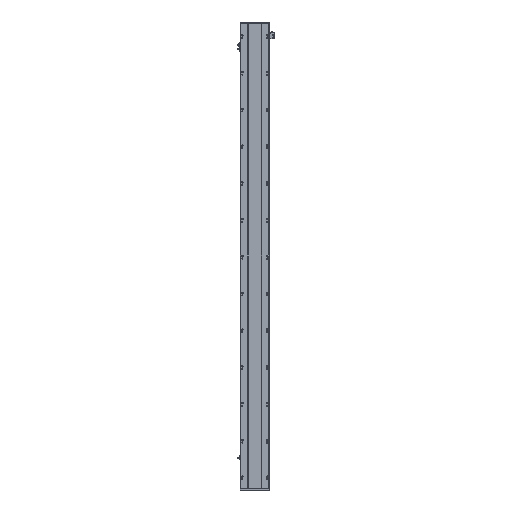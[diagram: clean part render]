
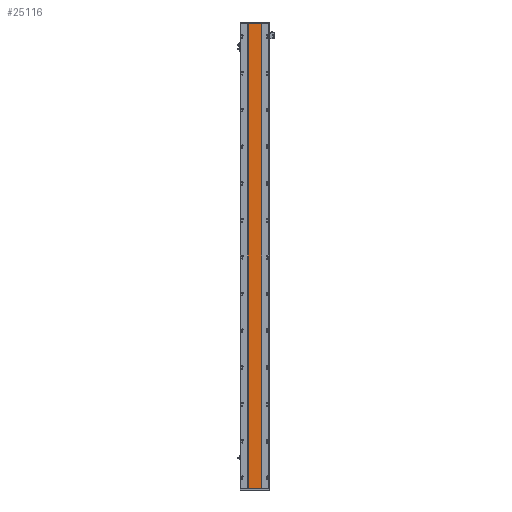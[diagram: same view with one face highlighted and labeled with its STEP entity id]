
A CAD part, front view. The second image highlights one B-rep face of the part: STEP entity #25116.
In plain terms, the highlighted planar face has unit normal (0, -1, 0).
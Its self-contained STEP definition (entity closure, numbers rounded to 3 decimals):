
#402 = LINE ( 'NONE', #27187, #14129 ) ;
#503 = LINE ( 'NONE', #15729, #35595 ) ;
#879 = EDGE_CURVE ( 'NONE', #9403, #27815, #32915, .T. ) ;
#1818 = ORIENTED_EDGE ( 'NONE', *, *, #44872, .T. ) ;
#2358 = EDGE_CURVE ( 'NONE', #36600, #9403, #402, .T. ) ;
#3226 = CARTESIAN_POINT ( 'NONE',  ( 205.288, 16.9, 2728. ) ) ;
#3916 = LINE ( 'NONE', #9081, #23621 ) ;
#6047 = VECTOR ( 'NONE', #44891, 1000. ) ;
#9081 = CARTESIAN_POINT ( 'NONE',  ( 205.288, 16.9, 0. ) ) ;
#9403 = VERTEX_POINT ( 'NONE', #39782 ) ;
#11802 = VERTEX_POINT ( 'NONE', #30415 ) ;
#11845 = EDGE_CURVE ( 'NONE', #36600, #11802, #503, .T. ) ;
#12239 = ORIENTED_EDGE ( 'NONE', *, *, #879, .F. ) ;
#13074 = DIRECTION ( 'NONE',  ( 1., 0., 0. ) ) ;
#13469 = CARTESIAN_POINT ( 'NONE',  ( 129.288, 16.9, 2728. ) ) ;
#14129 = VECTOR ( 'NONE', #13074, 1000. ) ;
#14479 = CARTESIAN_POINT ( 'NONE',  ( 205.288, 16.9, 2728. ) ) ;
#15729 = CARTESIAN_POINT ( 'NONE',  ( 129.288, 16.9, 2728. ) ) ;
#19232 = DIRECTION ( 'NONE',  ( 0., 0., -1. ) ) ;
#23621 = VECTOR ( 'NONE', #34481, 1000. ) ;
#24435 = DIRECTION ( 'NONE',  ( 0., 1., 0. ) ) ;
#25116 = ADVANCED_FACE ( 'NONE', ( #43645 ), #35025, .F. ) ;
#27187 = CARTESIAN_POINT ( 'NONE',  ( 129.288, 16.9, 2728. ) ) ;
#27815 = VERTEX_POINT ( 'NONE', #39655 ) ;
#30415 = CARTESIAN_POINT ( 'NONE',  ( 129.288, 16.9, 0. ) ) ;
#32050 = AXIS2_PLACEMENT_3D ( 'NONE', #14479, #24435, #38534 ) ;
#32915 = LINE ( 'NONE', #3226, #6047 ) ;
#34270 = EDGE_LOOP ( 'NONE', ( #1818, #12239, #37625, #35289 ) ) ;
#34481 = DIRECTION ( 'NONE',  ( 1., 0., 0. ) ) ;
#35025 = PLANE ( 'NONE',  #32050 ) ;
#35289 = ORIENTED_EDGE ( 'NONE', *, *, #11845, .T. ) ;
#35595 = VECTOR ( 'NONE', #19232, 1000. ) ;
#36600 = VERTEX_POINT ( 'NONE', #13469 ) ;
#37625 = ORIENTED_EDGE ( 'NONE', *, *, #2358, .F. ) ;
#38534 = DIRECTION ( 'NONE',  ( -1., 0., 0. ) ) ;
#39655 = CARTESIAN_POINT ( 'NONE',  ( 205.288, 16.9, 0. ) ) ;
#39782 = CARTESIAN_POINT ( 'NONE',  ( 205.288, 16.9, 2728. ) ) ;
#43645 = FACE_OUTER_BOUND ( 'NONE', #34270, .T. ) ;
#44872 = EDGE_CURVE ( 'NONE', #11802, #27815, #3916, .T. ) ;
#44891 = DIRECTION ( 'NONE',  ( 0., 0., -1. ) ) ;
